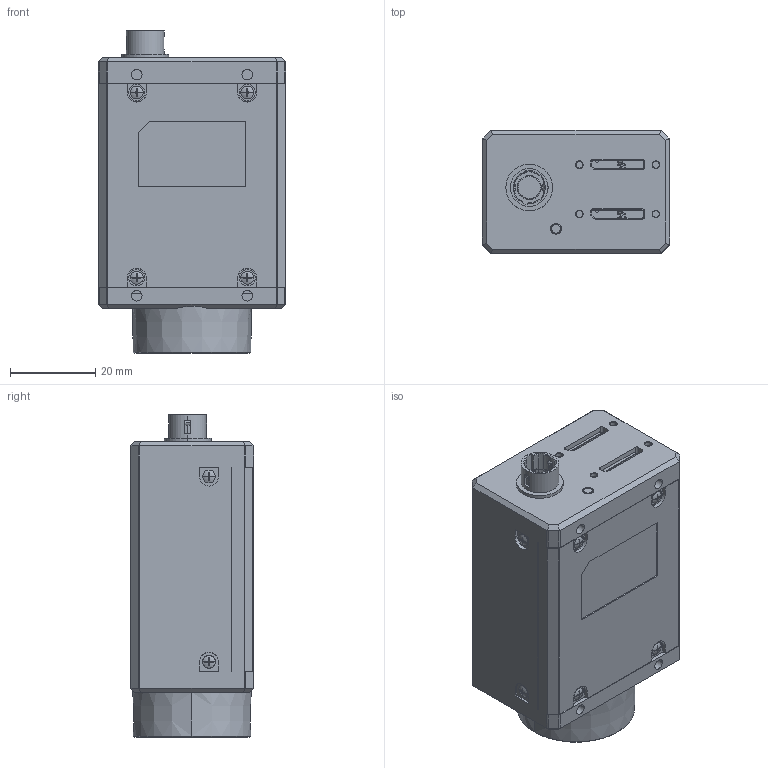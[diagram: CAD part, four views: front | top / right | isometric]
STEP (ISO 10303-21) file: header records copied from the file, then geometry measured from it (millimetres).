
FILE_DESCRIPTION((''),'2;1');
FILE_NAME('00-U00_ASM_ASM_1_ASM','2023-08-30T10:32:58',('gengdawei'),(''),'CREO PARAMETRIC BY PTC INC, 2020044','CREO PARAMETRIC BY PTC INC, 2020044','');
FILE_SCHEMA(('CONFIG_CONTROL_DESIGN'));
Products named in the file (4): 00-U00_ASM_ASM_1_1; DA-18-002055; DA-11-095918; 00-U00_ASM_ASM_1_ASM
Assembly tree (4 placements, depth 2):
  00-U00_ASM_ASM_1_ASM
    00-U00_ASM_ASM_1_1
    DA-18-002055  x2
    DA-11-095918
Bounding box: 44 x 29 x 75.81 mm (x, y, z)
Volume: 73219.9 mm3; surface area: 26170 mm2
Topology: 4 solids, 10 shells, 2783 faces, 8041 edges, 5230 vertices
Faces by surface type: plane 1669, cylinder 941, cone 89, torus 46, sphere 20, bspline 18
Entity records: 67686 total; most frequent: CARTESIAN_POINT 14752, ORIENTED_EDGE 11414, DIRECTION 10871, EDGE_CURVE 5707, AXIS2_PLACEMENT_3D 3708, VERTEX_POINT 3708, VECTOR 3455, LINE 3455
